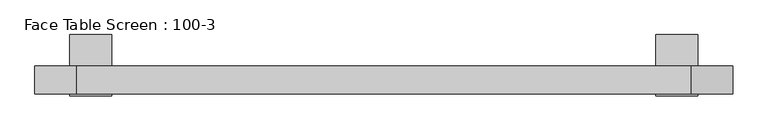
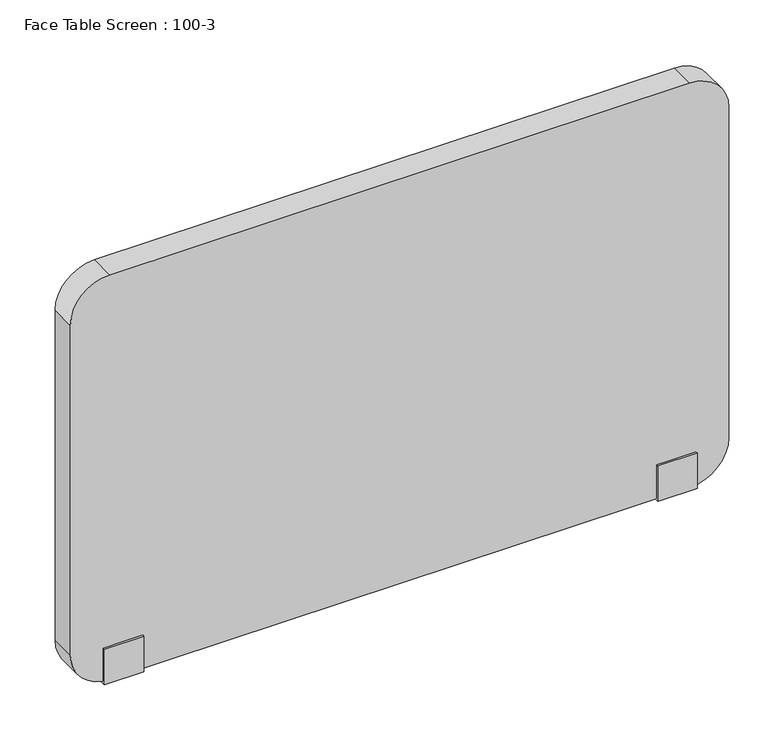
"""IFC4 building model written with IfcOpenShell, lengths in millimetres: furniture geometry, Face Table Screen : 100-3."""

from ifc_helpers import new_model, si_unit, point, frame, frame_2d, origin, place, context, project, spatial, polyline, circle_curve, trimmed, segment, composite_curve, outline, extrude, source, transform, mapped, element, save


def face_table_screen_100_3_95eb67a5(model_context):
    return source(origin(), model_context, "Body", "SweptSolid", [
        extrude(outline(polyline([(-22.9999947, -156.0), (-22.9999997, -99.0433898), (-20.0, -99.0433898), (-20.0, -153.0), (20.0, -153.0), (20.0, -22.0), (65.0, -22.0), (65.0, -25.0433898), (23.0000062, -25.0433898), (22.9999947, -156.0), (-22.9999947, -156.0)])), frame((390.0, 0.0, 0.0), z_axis=(1.0, 0.0, 0.0), x_axis=(0.0, 1.0, 0.0)), (0.0, 0.0, 1.0), 60.0),
        extrude(outline(polyline([(-22.9999947, -156.0), (-22.9999997, -99.0433898), (-20.0, -99.0433898), (-20.0, -153.0), (20.0, -153.0), (20.0, -22.0), (65.0, -22.0), (65.0, -25.0433898), (23.0000062, -25.0433898), (22.9999947, -156.0), (-22.9999947, -156.0)])), frame((-450.0, 0.0, 0.0), z_axis=(1.0, 0.0, 0.0), x_axis=(0.0, 1.0, 0.0)), (0.0, 0.0, 1.0), 60.0),
        extrude(outline(composite_curve([segment(polyline([(497.0, 440.0), (497.0, -440.0)]), True, "CONTINUOUS"), segment(trimmed(circle_curve(frame_2d((437.0, -440.0)), 60.0), [point((497.0, -440.0))], [point((437.0, -500.0))], False, "CARTESIAN"), True, "CONTINUOUS"), segment(polyline([(437.0, -500.0), (-93.0, -500.0)]), True, "CONTINUOUS"), segment(trimmed(circle_curve(frame_2d((-93.0, -440.0)), 60.0), [point((-93.0, -500.0))], [point((-153.0, -440.0))], False, "CARTESIAN"), True, "CONTINUOUS"), segment(polyline([(-153.0, -440.0), (-153.0, 440.0)]), True, "CONTINUOUS"), segment(trimmed(circle_curve(frame_2d((-93.0, 440.0)), 60.0), [point((-153.0, 440.0))], [point((-93.0, 500.0))], False, "CARTESIAN"), True, "CONTINUOUS"), segment(polyline([(-93.0, 500.0), (437.0, 500.0)]), True, "CONTINUOUS"), segment(trimmed(circle_curve(frame_2d((437.0, 440.0)), 60.0), [point((437.0, 500.0))], [point((497.0, 440.0))], False, "CARTESIAN"), True, "CONTINUOUS")], self_intersect=False)), frame((0.0, -20.0, 0.0), z_axis=(0.0, 1.0, 0.0), x_axis=(0.0, 0.0, 1.0)), (0.0, 0.0, 1.0), 40.0),
    ])


if __name__ == "__main__":
    model = new_model("IFC4")
    model_context = context("Model", 3, world=origin())
    ifc_project = project(units=[si_unit("LENGTHUNIT", "METRE", prefix="MILLI")], contexts=[model_context])
    site = spatial("IfcSite", under=ifc_project)
    building = spatial("IfcBuilding", under=site)
    placement = place(None, origin())
    face_table_screen_100_3_shape = face_table_screen_100_3_95eb67a5(model_context)
    element("IfcFurniture", 1, ObjectType="Face Table Screen : 100-3", at=placement, inside=building, context=model_context, shape_type="MappedRepresentation", body=[
        mapped(face_table_screen_100_3_shape, transform((0.0, 0.0, 0.0), x_axis=(1.0, 0.0, 0.0), y_axis=(0.0, 1.0, 0.0), z_axis=(0.0, 0.0, 1.0))),
    ])
    save(model, "model.ifc")
